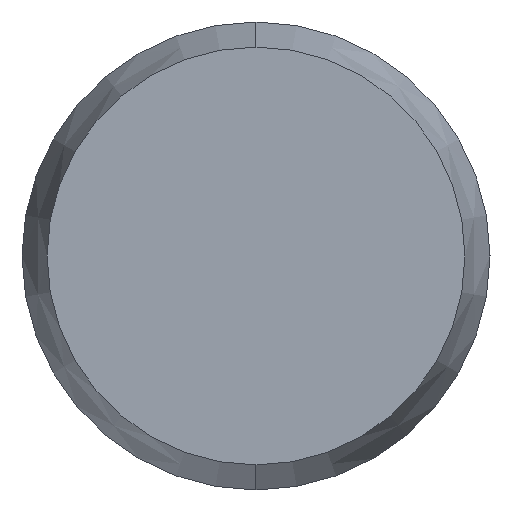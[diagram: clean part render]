
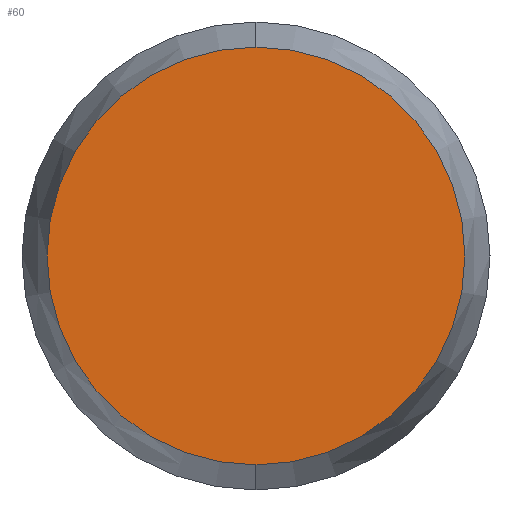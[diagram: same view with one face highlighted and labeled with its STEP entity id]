
A CAD part, left-side view. The second image highlights one B-rep face of the part: STEP entity #60.
In plain terms, the highlighted planar face has unit normal (-1, 0, 0).
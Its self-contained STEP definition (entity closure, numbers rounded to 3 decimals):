
#18 = EDGE_CURVE ( 'NONE', #19, #20, #103, .T. ) ;
#19 = VERTEX_POINT ( 'NONE', #160 ) ;
#20 = VERTEX_POINT ( 'NONE', #159 ) ;
#57 = EDGE_CURVE ( 'NONE', #20, #19, #141, .T. ) ;
#60 = ADVANCED_FACE ( 'NONE', ( #136 ), #135, .F. ) ;
#61 = EDGE_LOOP ( 'NONE', ( #62, #63 ) ) ;
#62 = ORIENTED_EDGE ( 'NONE', *, *, #18, .F. ) ;
#63 = ORIENTED_EDGE ( 'NONE', *, *, #57, .F. ) ;
#103 = CIRCLE ( 'NONE', #164, 0.446 ) ;
#130 = DIRECTION ( 'NONE',  ( 0., 0., -1. ) ) ;
#131 = DIRECTION ( 'NONE',  ( 1., 0., 0. ) ) ;
#132 = CARTESIAN_POINT ( 'NONE',  ( -3., 0., 0. ) ) ;
#134 = AXIS2_PLACEMENT_3D ( 'NONE', #132, #131, #130 ) ;
#135 = PLANE ( 'NONE',  #134 ) ;
#136 = FACE_OUTER_BOUND ( 'NONE', #61, .T. ) ;
#137 = DIRECTION ( 'NONE',  ( 0., 0., -1. ) ) ;
#138 = DIRECTION ( 'NONE',  ( 1., 0., 0. ) ) ;
#139 = CARTESIAN_POINT ( 'NONE',  ( -3., 0., 0. ) ) ;
#140 = AXIS2_PLACEMENT_3D ( 'NONE', #139, #138, #137 ) ;
#141 = CIRCLE ( 'NONE', #140, 0.446 ) ;
#159 = CARTESIAN_POINT ( 'NONE',  ( -3., 0., -0.446 ) ) ;
#160 = CARTESIAN_POINT ( 'NONE',  ( -3., 0., 0.446 ) ) ;
#161 = DIRECTION ( 'NONE',  ( 0., 0., -1. ) ) ;
#162 = DIRECTION ( 'NONE',  ( 1., 0., 0. ) ) ;
#163 = CARTESIAN_POINT ( 'NONE',  ( -3., 0., 0. ) ) ;
#164 = AXIS2_PLACEMENT_3D ( 'NONE', #163, #162, #161 ) ;
